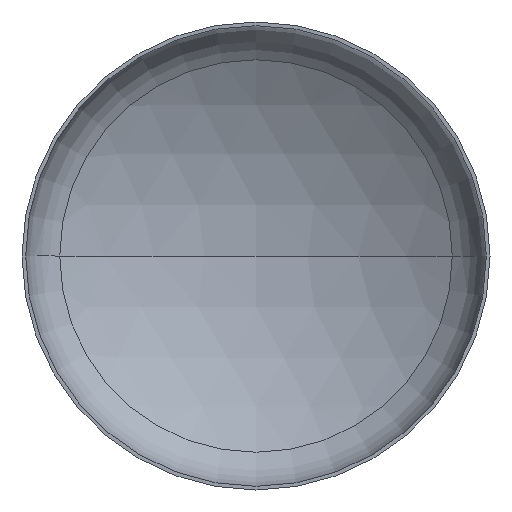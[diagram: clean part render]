
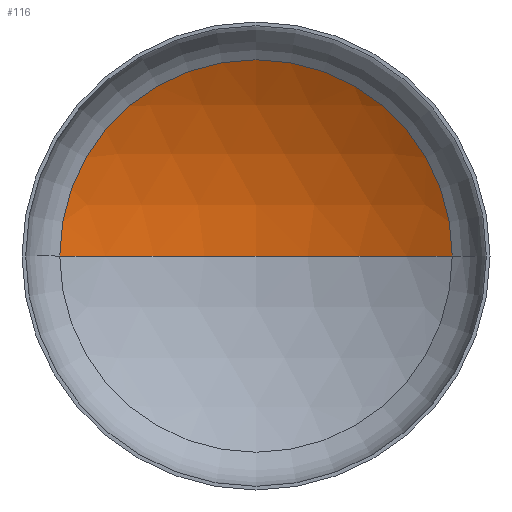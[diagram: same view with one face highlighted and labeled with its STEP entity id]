
A CAD part, front view. The second image highlights one B-rep face of the part: STEP entity #116.
In plain terms, the highlighted spherical face has radius 2560 mm.
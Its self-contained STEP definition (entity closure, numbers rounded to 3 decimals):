
#12 = ORIENTED_EDGE ( 'NONE', *, *, #183, .T. ) ;
#23 = EDGE_LOOP ( 'NONE', ( #106, #12, #221 ) ) ;
#39 = AXIS2_PLACEMENT_3D ( 'NONE', #149, #371, #383 ) ;
#44 = AXIS2_PLACEMENT_3D ( 'NONE', #269, #266, #263 ) ;
#47 = AXIS2_PLACEMENT_3D ( 'NONE', #147, #191, #359 ) ;
#51 = AXIS2_PLACEMENT_3D ( 'NONE', #313, #177, #204 ) ;
#86 = VERTEX_POINT ( 'NONE', #326 ) ;
#106 = ORIENTED_EDGE ( 'NONE', *, *, #218, .F. ) ;
#116 = ADVANCED_FACE ( 'NONE', ( #351 ), #299, .F. ) ;
#119 = VERTEX_POINT ( 'NONE', #286 ) ;
#147 = CARTESIAN_POINT ( 'NONE',  ( 0., 492.295, 0. ) ) ;
#149 = CARTESIAN_POINT ( 'NONE',  ( 0., -1687.86, 0. ) ) ;
#150 = EDGE_CURVE ( 'NONE', #201, #119, #248, .T. ) ;
#177 = DIRECTION ( 'NONE',  ( 0., 0., -1. ) ) ;
#183 = EDGE_CURVE ( 'NONE', #86, #201, #285, .T. ) ;
#191 = DIRECTION ( 'NONE',  ( 0., -1., 0. ) ) ;
#201 = VERTEX_POINT ( 'NONE', #244 ) ;
#204 = DIRECTION ( 'NONE',  ( -1., 0., 0. ) ) ;
#218 = EDGE_CURVE ( 'NONE', #86, #119, #281, .T. ) ;
#221 = ORIENTED_EDGE ( 'NONE', *, *, #150, .T. ) ;
#244 = CARTESIAN_POINT ( 'NONE',  ( 1341.836, 492.295, 0. ) ) ;
#248 = CIRCLE ( 'NONE', #47, 1341.836 ) ;
#263 = DIRECTION ( 'NONE',  ( -1., 0., 0. ) ) ;
#266 = DIRECTION ( 'NONE',  ( 0., 0., -1. ) ) ;
#269 = CARTESIAN_POINT ( 'NONE',  ( 0., -1687.86, 0. ) ) ;
#281 = CIRCLE ( 'NONE', #39, 2560. ) ;
#285 = CIRCLE ( 'NONE', #44, 2560. ) ;
#286 = CARTESIAN_POINT ( 'NONE',  ( -1341.836, 492.295, 0. ) ) ;
#299 = SPHERICAL_SURFACE ( 'NONE', #51, 2560. ) ;
#313 = CARTESIAN_POINT ( 'NONE',  ( 0., -1687.86, 0. ) ) ;
#326 = CARTESIAN_POINT ( 'NONE',  ( 0., 872.14, 0. ) ) ;
#351 = FACE_OUTER_BOUND ( 'NONE', #23, .T. ) ;
#359 = DIRECTION ( 'NONE',  ( 1., 0., 0. ) ) ;
#371 = DIRECTION ( 'NONE',  ( 0., 0., 1. ) ) ;
#383 = DIRECTION ( 'NONE',  ( 1., 0., 0. ) ) ;
